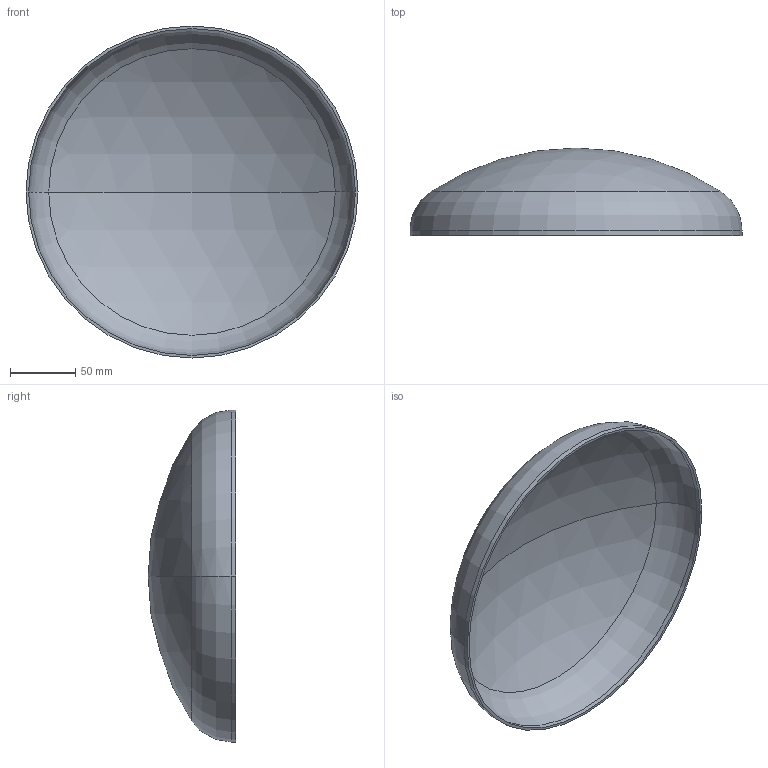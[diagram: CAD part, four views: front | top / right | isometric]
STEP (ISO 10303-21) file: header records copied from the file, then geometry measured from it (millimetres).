
FILE_DESCRIPTION (( 'STEP AP203' ), '1' );
FILE_NAME ('3D_R365_254x2_173371300.STEP', '2024-07-16T06:45:36', ( '' ), ( '' ), 'SwSTEP 2.0', 'SolidWorks 2024', '' );
FILE_SCHEMA (( 'CONFIG_CONTROL_DESIGN' ));
Length unit declared in the file: millimetre
Products named in the file (1): 3D_R365_254x2_173371300
Bounding box: 254 x 67 x 254 mm (x, y, z)
Volume: 141479.6 mm3; surface area: 143071.3 mm2
Topology: 1 solids, 1 shells, 13 faces, 24 edges, 14 vertices
Faces by surface type: sphere 4, torus 4, cylinder 4, plane 1
Entity records: 407 total; most frequent: DIRECTION 72, CARTESIAN_POINT 52, ORIENTED_EDGE 48, AXIS2_PLACEMENT_3D 34, EDGE_CURVE 24, CIRCLE 20, VERTEX_POINT 14, EDGE_LOOP 14
